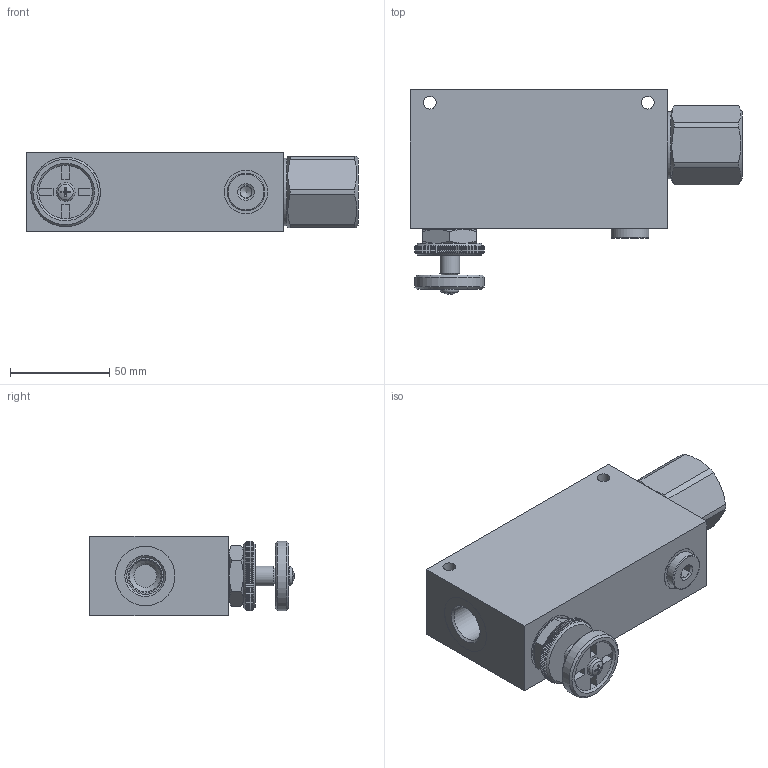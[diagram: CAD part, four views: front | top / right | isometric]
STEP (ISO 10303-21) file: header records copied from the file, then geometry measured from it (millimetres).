
FILE_DESCRIPTION(/* description */ (''),/* implementation_level */ '2;1');
FILE_NAME(/* name */ 'C:\Users\fabio.radici.LUEN\Desktop\X Laura\004-005-0X0.stp',/* time_stamp */ '2017-04-18T08:55:34+02:00',/* author */ ('Radici'),/* organization */ (''),/* preprocessor_version */ 'ST-DEVELOPER v16.1',/* originating_system */ 'Autodesk Inventor 2016',/* authorisation */ '');
FILE_SCHEMA (('CONFIG_CONTROL_DESIGN'));
Length unit declared in the file: millimetre
Products named in the file (1): 004-005-0X0_Shrinkwrap_1
Bounding box: 167.5 x 103.17 x 40 mm (x, y, z)
Volume: 365469.3 mm3; surface area: 72722.6 mm2
Topology: 2 solids, 2 shells, 499 faces, 1352 edges, 881 vertices
Faces by surface type: plane 318, cylinder 97, cone 68, torus 15, sphere 1
Full cylindrical faces by diameter (mm): 3 x2, 3.242 x1, 5 x10, 6.5 x2, 7 x4, 8 x5, 8.5 x1, 9.4 x1, 9.5 x1, 9.6 x1, 10 x2, 10.9 x2, 11 x1, 11.215 x1, 11.75 x1, 12.4 x1, 15 x1, 16 x2, 16.179 x1, 17.7 x1, 18.631 x3, 18.75 x1, 19 x2, 20 x1, 21 x3, 22 x4, 25 x2, 26 x2, 27 x1, 27.877 x1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
Entity records: 15752 total; most frequent: CARTESIAN_POINT 4934, ORIENTED_EDGE 2308, DIRECTION 1818, EDGE_CURVE 1154, VERTEX_POINT 814, AXIS2_PLACEMENT_3D 740, EDGE_LOOP 700, STYLED_ITEM 500
